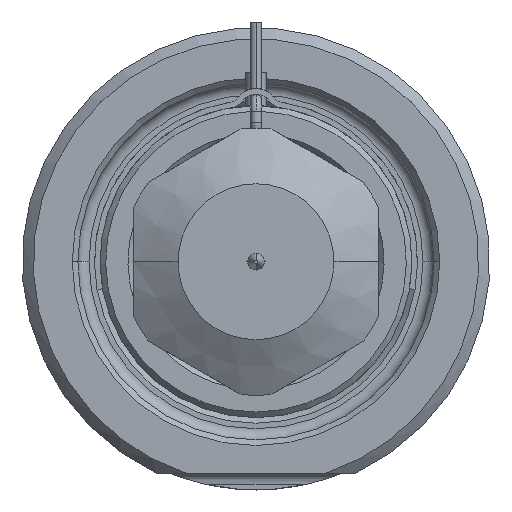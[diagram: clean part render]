
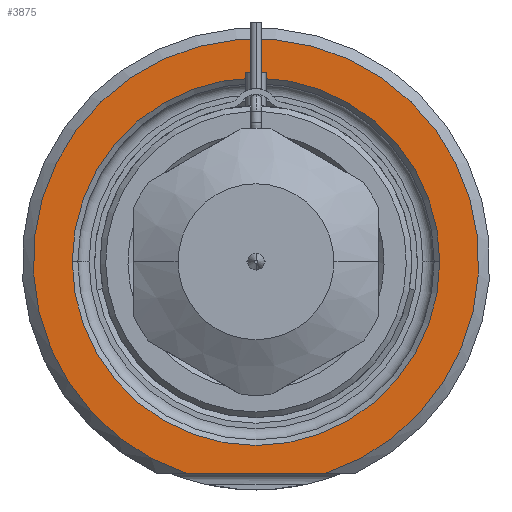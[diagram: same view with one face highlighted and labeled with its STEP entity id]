
A CAD part, front view. The second image highlights one B-rep face of the part: STEP entity #3875.
In plain terms, the highlighted planar face has unit normal (0, -1, 0).
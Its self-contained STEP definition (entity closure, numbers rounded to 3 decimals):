
#1=DIRECTION('',(1.,0.,0.));
#2=VECTOR('',#1,12.49);
#3=CARTESIAN_POINT('',(-6.245,0.,-19.));
#4=LINE('',#3,#2);
#5=CARTESIAN_POINT('',(0.,0.,0.));
#6=DIRECTION('',(0.,1.,0.));
#7=DIRECTION('',(-1.,0.,0.));
#8=AXIS2_PLACEMENT_3D('',#5,#6,#7);
#10=CARTESIAN_POINT('',(0.,0.,0.));
#11=DIRECTION('',(0.,1.,0.));
#12=DIRECTION('',(1.,0.,0.));
#13=AXIS2_PLACEMENT_3D('',#10,#11,#12);
#119=CARTESIAN_POINT('',(0.,0.,0.));
#120=DIRECTION('',(0.,-1.,0.));
#121=DIRECTION('',(0.312,0.,-0.95));
#122=AXIS2_PLACEMENT_3D('',#119,#120,#121);
#3246=CARTESIAN_POINT('',(-16.5,0.,0.));
#3247=CARTESIAN_POINT('',(16.5,0.,0.));
#3248=VERTEX_POINT('',#3246);
#3249=VERTEX_POINT('',#3247);
#3286=CARTESIAN_POINT('',(-6.245,0.,-19.));
#3287=CARTESIAN_POINT('',(6.245,0.,-19.));
#3288=VERTEX_POINT('',#3286);
#3289=VERTEX_POINT('',#3287);
#3858=CARTESIAN_POINT('',(0.,0.,0.));
#3859=DIRECTION('',(0.,-1.,0.));
#3860=DIRECTION('',(1.,0.,0.));
#3861=AXIS2_PLACEMENT_3D('',#3858,#3859,#3860);
#3862=PLANE('',#3861);
#3864=ORIENTED_EDGE('',*,*,#3863,.F.);
#3866=ORIENTED_EDGE('',*,*,#3865,.F.);
#3867=EDGE_LOOP('',(#3864,#3866));
#3868=FACE_OUTER_BOUND('',#3867,.F.);
#3870=ORIENTED_EDGE('',*,*,#3869,.F.);
#3872=ORIENTED_EDGE('',*,*,#3871,.F.);
#3873=EDGE_LOOP('',(#3870,#3872));
#3874=FACE_BOUND('',#3873,.F.);
#3875=ADVANCED_FACE('',(#3868,#3874),#3862,.T.);
#9=CIRCLE('',#8,16.5);
#14=CIRCLE('',#13,16.5);
#123=CIRCLE('',#122,20.);
#3863=EDGE_CURVE('',#3288,#3289,#4,.T.);
#3865=EDGE_CURVE('',#3289,#3288,#123,.T.);
#3869=EDGE_CURVE('',#3248,#3249,#9,.T.);
#3871=EDGE_CURVE('',#3249,#3248,#14,.T.);
